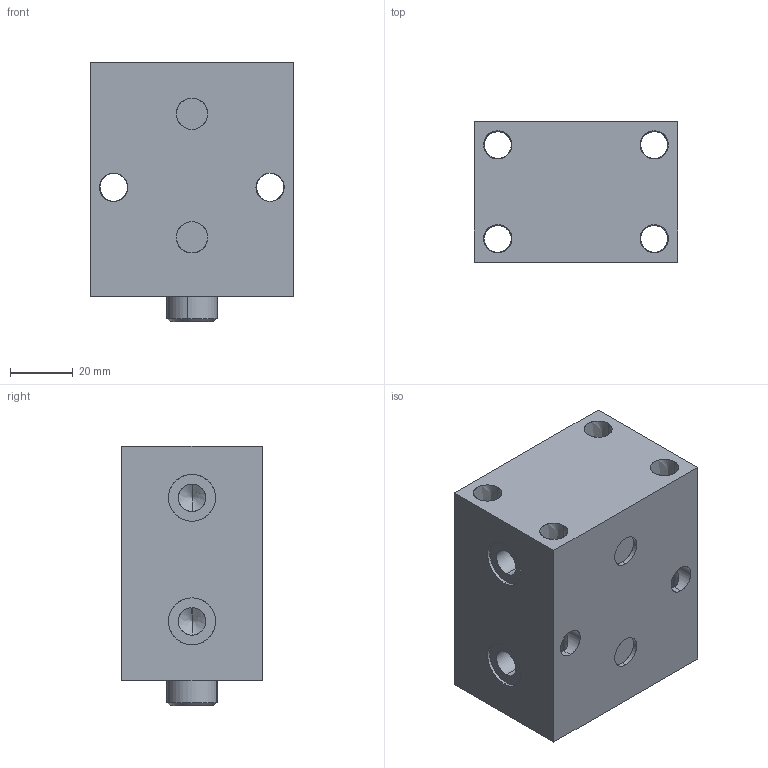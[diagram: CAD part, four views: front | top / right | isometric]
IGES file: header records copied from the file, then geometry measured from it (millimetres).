
Start section: SolidWorks IGES file using analytic representation for surfaces
Global section: file name: D:\karuppas\Clasp\3D model\Block cylinder B01C-Female thread\B01C-125F\block cylinder B01C-125F.IGS; native system: SolidWorks 2017; preprocessor: SolidWorks 2017; author: pc; date: 220709.235634; units: millimetre
Bounding box: 65 x 45 x 83 mm (x, y, z)
Surface area: 38928.9 mm2 (no closed solid volume)
Topology: 0 solids, 0 shells, 226 faces, 4119 edges, 4113 vertices
Faces by surface type: bspline 182, revolution 44
